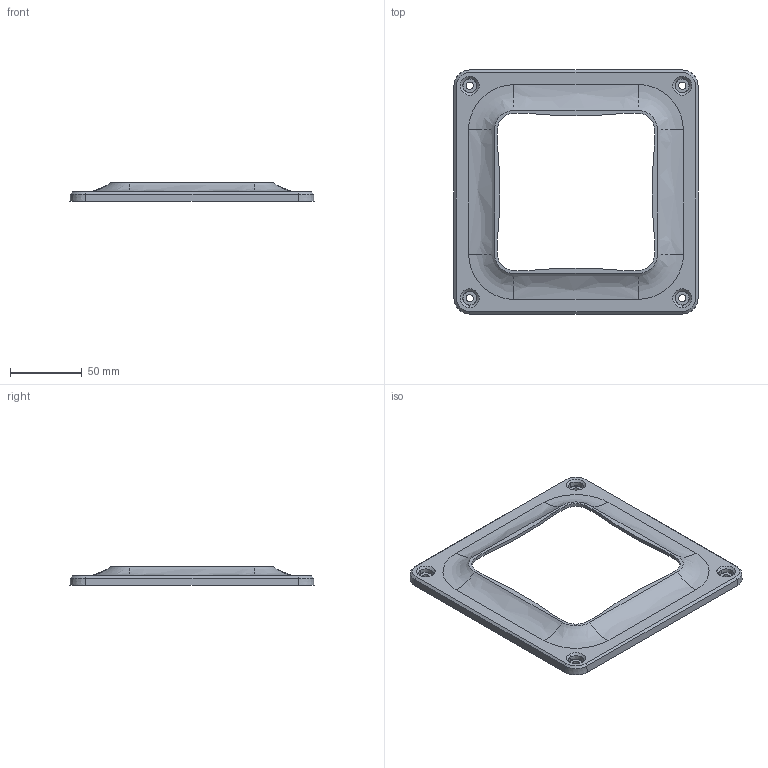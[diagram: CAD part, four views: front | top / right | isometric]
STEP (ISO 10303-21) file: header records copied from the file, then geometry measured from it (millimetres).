
FILE_DESCRIPTION((''),'2;1');
FILE_NAME('G_MCT','2022-12-06T06:56:18',('Tomas Bellgran'),(''),'CREO PARAMETRIC BY PTC INC, 2018260','CREO PARAMETRIC BY PTC INC, 2018260','');
FILE_SCHEMA(('AUTOMOTIVE_DESIGN { 1 0 10303 214 1 1 1 1 }'));
Length unit declared in the file: millimetre
Products named in the file (1): G_MCT
Bounding box: 170 x 170 x 13 mm (x, y, z)
Volume: 47504.6 mm3; surface area: 44013.1 mm2
Topology: 1 solids, 1 shells, 141 faces, 336 edges, 208 vertices
Faces by surface type: cone 88, plane 37, bspline 16
Entity records: 6702 total; most frequent: CARTESIAN_POINT 2090, DIRECTION 695, ORIENTED_EDGE 672, PRESENTATION_STYLE_ASSIGNMENT 337, STYLED_ITEM 337, CURVE_STYLE 336, EDGE_CURVE 336, AXIS2_PLACEMENT_3D 266
